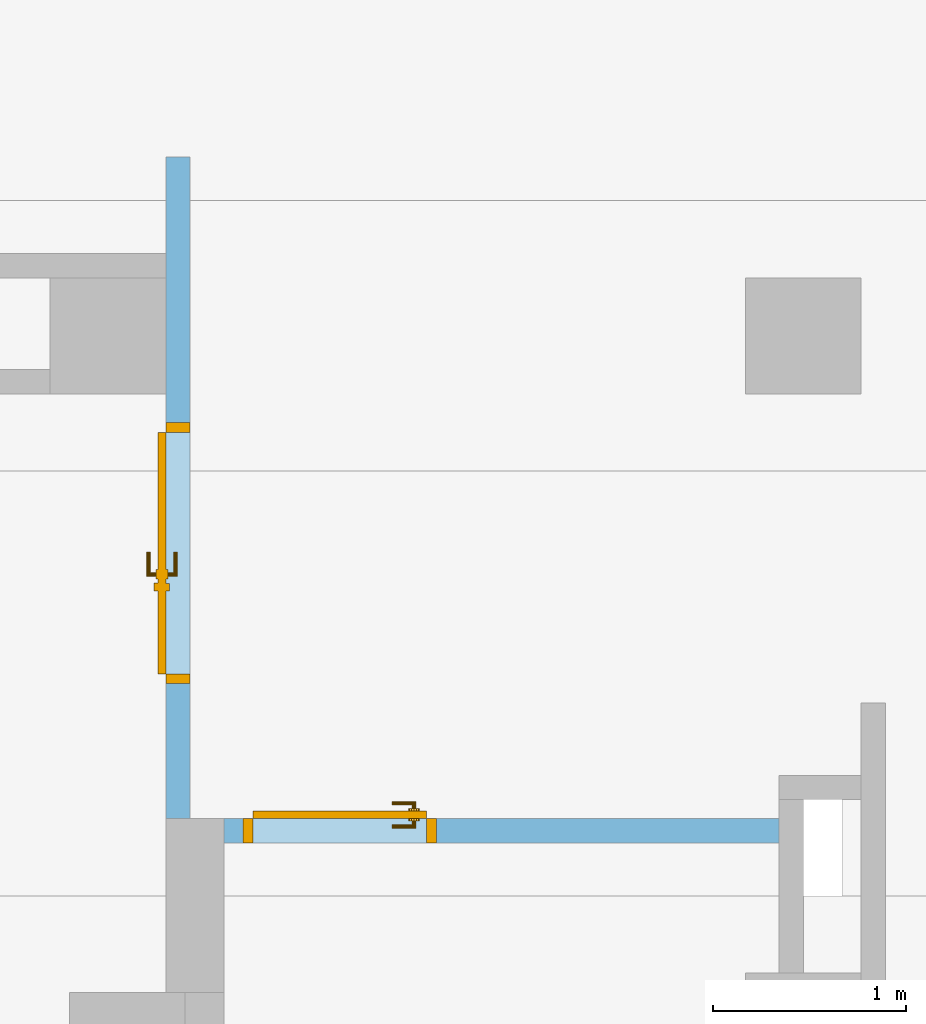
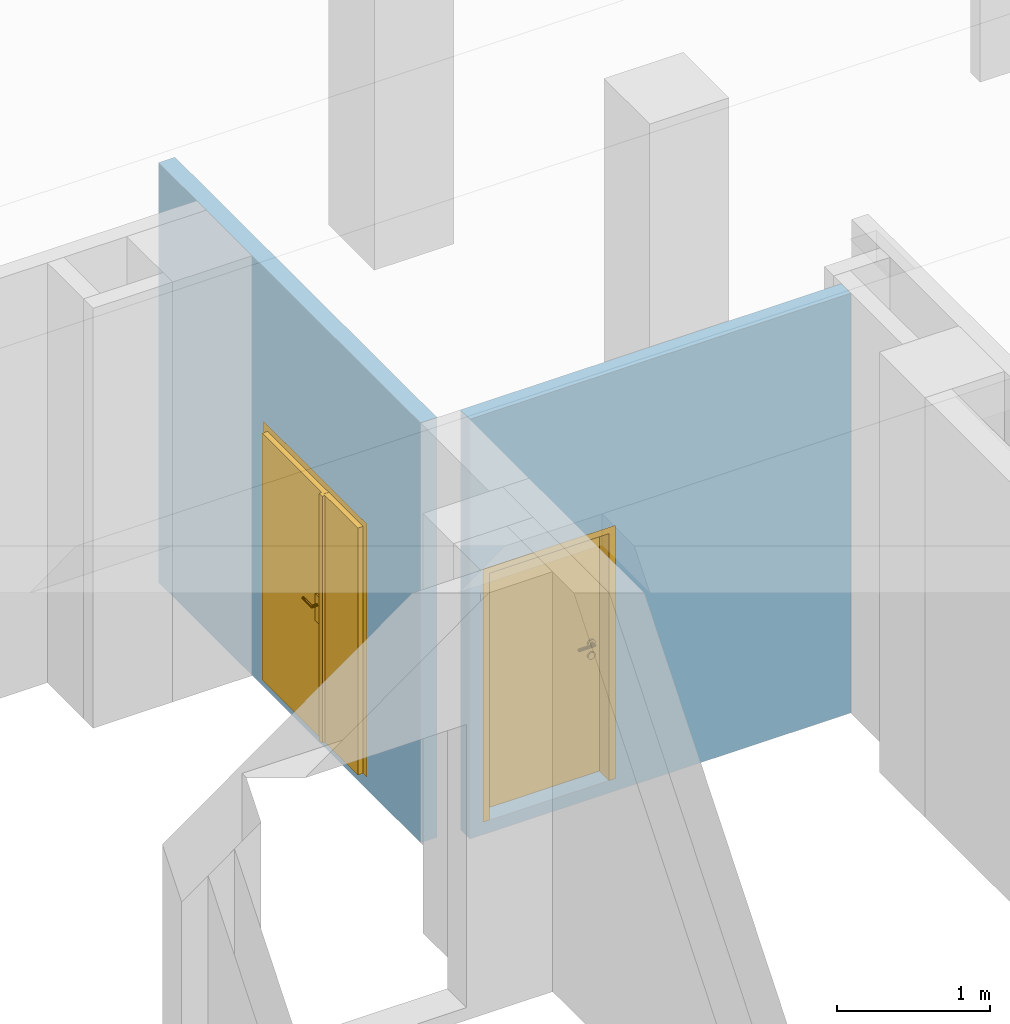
# One storey, part 41 of 50: 2 doors, 2 openings, plus 2 elements that do not belong to this part.
"""IFC4 building model written with IfcOpenShell, lengths in metres."""

from ifc_helpers import new_model, entity, si_unit, converted_unit, derived_unit, frame, frame_2d, origin, origin_with_axes, place, context, subcontext, project, spatial, polyline, rectangle, outline, extrude, closed_shell, open_shell, surface_model, source, transform, mapped, material, layer, layer_set, layer_usage, type_object, element, fill, save


model = new_model("IFC4")

# Units and contexts
model_context = context("Model", 3, precision=1e-05, world=origin())
body_context = subcontext(model_context, "Body", "Model", "MODEL_VIEW")
ifc_project = project(units=[si_unit("LENGTHUNIT", "METRE"), si_unit("AREAUNIT", "SQUARE_METRE"), si_unit("VOLUMEUNIT", "CUBIC_METRE"), si_unit("MASSUNIT", "GRAM", prefix="KILO"), converted_unit("PLANEANGLEUNIT", "DEGREE", entity("IfcPlaneAngleMeasure", 0.0174532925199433), si_unit("PLANEANGLEUNIT", "RADIAN"), dimensions=[0, 0, 0, 0, 0, 0, 0]), derived_unit("THERMALTRANSMITTANCEUNIT", [(si_unit("POWERUNIT", "WATT"), 1), (si_unit("THERMODYNAMICTEMPERATUREUNIT", "KELVIN"), -1), (si_unit("LENGTHUNIT", "METRE"), -2)]), derived_unit("VOLUMETRICFLOWRATEUNIT", [(si_unit("LENGTHUNIT", "METRE"), 3), (converted_unit("TIMEUNIT", "hour", entity("IfcTimeMeasure", 3600.0), si_unit("TIMEUNIT", "SECOND"), dimensions=[0, 0, 1, 0, 0, 0, 0]), -1), (si_unit("LENGTHUNIT", "METRE"), -1)])], contexts=[model_context])

# Site, building, storey
site_placement = place(None, origin())
site = spatial("IfcSite", under=ifc_project, at=site_placement, Name="3. ASŘ", CompositionType="ELEMENT")
building_placement = place(site_placement, origin())
building = spatial("IfcBuilding", under=site, at=building_placement, Name="Pavilon C", CompositionType="ELEMENT")
storey_placement = place(building_placement, frame((0.0, 0.0, 3.6)))
storey = spatial("IfcBuildingStorey", under=building, at=storey_placement, Name="Půdorys 2.NP", CompositionType="ELEMENT", Elevation=3.6)

# Wall, opening, door
ifc_material_1 = material(Name="ZDIVO Z CDm")
ifc_layer_1 = layer(ifc_material_1, 0.125)
ifc_layer_set_1 = layer_set([ifc_layer_1])
ifc_layer_usage_1 = layer_usage(ifc_layer_set_1, "AXIS2", "POSITIVE", 0.0)
wall_1_placement = place(storey_placement, frame((40.65, 4.525, -0.1), z_axis=(0.0, 0.0, 1.0), x_axis=(0.0, -1.0, 0.0)))
wall_1 = element("IfcWall", 1, at=wall_1_placement, inside=storey, material=ifc_layer_usage_1, Name="ZDIVO Z CDm", context=body_context, shape_type="SweptSolid", body=[
    extrude(rectangle(XDim=3.42500000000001, YDim=0.125, at=frame_2d((1.7125, 0.0625), x_axis=(1.0, 0.0))), origin_with_axes(), (0.0, 0.0, 1.0), 3.35),
])
opening_1_placement = place(wall_1_placement, frame((1.37500000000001, 0.0, 0.1), z_axis=(0.0, 1.0, 0.0), x_axis=(0.0, 0.0, 1.0)))
opening_1 = element("IfcOpeningElement", 2, at=opening_1_placement, cuts=wall_1, Name="Dveřní otvor", ObjectType="Opening", context=body_context, shape_type="SweptSolid", body=[
    extrude(outline(polyline([(0.0, 1.35), (2.02, 1.35), (2.02, 0.0), (0.0, 0.0), (0.0, 1.35)])), origin_with_axes(), (0.0, 0.0, 1.0), 0.125),
])
door_type_1 = type_object("IfcDoorType", Name="D501", OperationType="NOTDEFINED", ParameterTakesPrecedence=False, PredefinedType="DOOR")
shared_shape_1 = source(origin_with_axes(), body_context, "Body", "SurfaceModel", [
    surface_model("IfcShellBasedSurfaceModel", [(0.0, 0.125, 2.02), (0.0, 0.125, -7.65404249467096e-18), (0.05, 0.125, -7.65404249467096e-18), (0.05, 0.125, 2.02), (0.0, 0.0, 7.65404249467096e-18), (0.0, 2.41584530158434e-16, 2.02), (0.05, 2.41584530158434e-16, 2.02), (0.05, 0.0, 7.65404249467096e-18)], [closed_shell([[[0, 1, 2, 3]], [[4, 5, 6, 7]], [[1, 0, 5, 4]], [[2, 1, 4, 7]], [[3, 2, 7, 6]], [[0, 3, 6, 5]]], orient=[[False], [False], [False], [False], [False], [False]])]),
    surface_model("IfcShellBasedSurfaceModel", [(1.3, 0.125, 2.02), (1.3, 0.125, -7.65404249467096e-18), (1.35, 0.125, -7.65404249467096e-18), (1.35, 0.125, 2.02), (1.3, 0.0, 7.65404249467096e-18), (1.3, 2.41584530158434e-16, 2.02), (1.35, 2.41584530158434e-16, 2.02), (1.35, 0.0, 7.65404249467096e-18)], [closed_shell([[[0, 1, 2, 3]], [[4, 5, 6, 7]], [[1, 0, 5, 4]], [[2, 1, 4, 7]], [[3, 2, 7, 6]], [[0, 3, 6, 5]]], orient=[[False], [False], [False], [False], [False], [False]])]),
    surface_model("IfcShellBasedSurfaceModel", [(0.05, 0.125, 2.02), (0.05, 0.125, 1.97), (1.3, 0.125, 1.97), (1.3, 0.125, 2.02), (0.05, 2.41584530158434e-16, 1.97), (0.05, 2.41584530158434e-16, 2.02), (1.3, 2.41584530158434e-16, 2.02), (1.3, 2.41584530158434e-16, 1.97)], [closed_shell([[[0, 1, 2, 3]], [[4, 5, 6, 7]], [[1, 0, 5, 4]], [[2, 1, 4, 7]], [[3, 2, 7, 6]], [[0, 3, 6, 5]]], orient=[[False], [False], [False], [False], [False], [False]])]),
    surface_model("IfcShellBasedSurfaceModel", [(0.05, 0.165, 1.97), (0.05, 0.165, -1.25526296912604e-17), (0.85, 0.165, -1.25526296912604e-17), (0.85, 0.165, 1.97), (0.05, 0.125, -7.65404249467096e-18), (0.05, 0.125, 1.97), (0.85, 0.125, 1.97), (0.85, 0.125, -7.65404249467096e-18)], [closed_shell([[[0, 1, 2, 3]], [[4, 5, 6, 7]], [[1, 0, 5, 4]], [[2, 1, 4, 7]], [[3, 2, 7, 6]], [[0, 3, 6, 5]]], orient=[[False], [False], [False], [False], [False], [False]])]),
    surface_model("IfcShellBasedSurfaceModel", [(0.83, 0.165, 1.97), (0.87, 0.165, 1.97), (0.87, 0.165, -1.25526296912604e-17), (0.83, 0.165, -1.25526296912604e-17), (0.83, 0.185, -1.50019232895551e-17), (0.87, 0.185, -1.50019232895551e-17), (0.87, 0.185, 1.97), (0.83, 0.185, 1.97)], [closed_shell([[[0, 1, 2, 3]], [[4, 5, 6, 7]], [[3, 4, 7, 0]], [[2, 5, 4, 3]], [[1, 6, 5, 2]], [[0, 7, 6, 1]]], orient=[[False], [False], [False], [False], [False], [False]])]),
    surface_model("IfcShellBasedSurfaceModel", [(0.76, 0.125, 1.125), (0.76, 0.125, 0.91), (0.81, 0.125, 0.91), (0.81, 0.125, 1.125), (0.76, 0.115, 0.91), (0.76, 0.115, 1.125), (0.81, 0.115, 1.125), (0.81, 0.115, 0.91)], [closed_shell([[[0, 1, 2, 3]], [[4, 5, 6, 7]], [[1, 0, 5, 4]], [[2, 1, 4, 7]], [[3, 2, 7, 6]], [[0, 3, 6, 5]]], orient=[[False], [False], [False], [False], [False], [False]])]),
    surface_model("IfcShellBasedSurfaceModel", [(0.785, 0.115, 1.06), (0.78, 0.115, 1.05866025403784), (0.776339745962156, 0.115, 1.055), (0.775, 0.115, 1.05), (0.776339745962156, 0.115, 1.045), (0.78, 0.115, 1.04133974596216), (0.785, 0.115, 1.04), (0.79, 0.115, 1.04133974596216), (0.793660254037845, 0.115, 1.045), (0.795, 0.115, 1.05), (0.793660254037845, 0.115, 1.055), (0.79, 0.115, 1.05866025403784), (0.79, 0.0700000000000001, 1.05866025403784), (0.785, 0.0750000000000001, 1.06), (0.793660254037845, 0.0663397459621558, 1.055), (0.795, 0.0650000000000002, 1.05), (0.793660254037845, 0.0663397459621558, 1.045), (0.79, 0.0700000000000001, 1.04133974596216), (0.785, 0.0750000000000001, 1.04), (0.78, 0.0800000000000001, 1.04133974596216), (0.776339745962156, 0.0836602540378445, 1.045), (0.775, 0.0850000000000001, 1.05), (0.776339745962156, 0.0836602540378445, 1.055), (0.78, 0.0800000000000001, 1.05866025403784), (0.67, 0.0700000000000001, 1.05866025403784), (0.67, 0.0750000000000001, 1.06), (0.67, 0.0663397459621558, 1.055), (0.67, 0.0650000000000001, 1.05), (0.67, 0.0663397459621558, 1.045), (0.67, 0.0700000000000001, 1.04133974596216), (0.67, 0.0750000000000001, 1.04), (0.67, 0.0800000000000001, 1.04133974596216), (0.67, 0.0836602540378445, 1.045), (0.67, 0.0850000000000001, 1.05), (0.67, 0.0836602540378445, 1.055), (0.67, 0.0800000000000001, 1.05866025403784)], [open_shell([[[0, 1, 2, 3, 4, 5, 6, 7, 8, 9, 10, 11]], [[0, 11, 12, 13]], [[11, 10, 14, 12]], [[10, 9, 15, 14]], [[9, 8, 16, 15]], [[8, 7, 17, 16]], [[7, 6, 18, 17]], [[6, 5, 19, 18]], [[5, 4, 20, 19]], [[4, 3, 21, 20]], [[3, 2, 22, 21]], [[2, 1, 23, 22]], [[1, 0, 13, 23]], [[13, 12, 24, 25]], [[12, 14, 26, 24]], [[14, 15, 27, 26]], [[15, 16, 28, 27]], [[16, 17, 29, 28]], [[17, 18, 30, 29]], [[18, 19, 31, 30]], [[19, 20, 32, 31]], [[20, 21, 33, 32]], [[21, 22, 34, 33]], [[22, 23, 35, 34]], [[23, 13, 25, 35]]], orient=[[False], [False], [False], [False], [False], [False], [False], [False], [False], [False], [False], [False], [False], [False], [False], [False], [False], [False], [False], [False], [False], [False], [False], [False], [False]])]),
    surface_model("IfcShellBasedSurfaceModel", [(0.76, 0.165, 1.125), (0.81, 0.165, 1.125), (0.81, 0.165, 0.91), (0.76, 0.165, 0.91), (0.76, 0.175, 0.91), (0.81, 0.175, 0.91), (0.81, 0.175, 1.125), (0.76, 0.175, 1.125)], [closed_shell([[[0, 1, 2, 3]], [[4, 5, 6, 7]], [[3, 4, 7, 0]], [[2, 5, 4, 3]], [[1, 6, 5, 2]], [[0, 7, 6, 1]]], orient=[[False], [False], [False], [False], [False], [False]])]),
    surface_model("IfcShellBasedSurfaceModel", [(0.785, 0.175, 1.06), (0.79, 0.175, 1.05866025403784), (0.793660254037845, 0.175, 1.055), (0.795, 0.175, 1.05), (0.793660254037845, 0.175, 1.045), (0.79, 0.175, 1.04133974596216), (0.785, 0.175, 1.04), (0.78, 0.175, 1.04133974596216), (0.776339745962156, 0.175, 1.045), (0.775, 0.175, 1.05), (0.776339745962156, 0.175, 1.055), (0.78, 0.175, 1.05866025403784), (0.785, 0.215, 1.06), (0.79, 0.22, 1.05866025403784), (0.793660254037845, 0.223660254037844, 1.055), (0.795, 0.225, 1.05), (0.793660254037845, 0.223660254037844, 1.045), (0.79, 0.22, 1.04133974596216), (0.785, 0.215, 1.04), (0.78, 0.21, 1.04133974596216), (0.776339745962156, 0.206339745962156, 1.045), (0.775, 0.205, 1.05), (0.776339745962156, 0.206339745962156, 1.055), (0.78, 0.21, 1.05866025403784), (0.67, 0.215, 1.06), (0.67, 0.22, 1.05866025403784), (0.67, 0.223660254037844, 1.055), (0.67, 0.225, 1.05), (0.67, 0.223660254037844, 1.045), (0.67, 0.22, 1.04133974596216), (0.67, 0.215, 1.04), (0.67, 0.21, 1.04133974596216), (0.67, 0.206339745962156, 1.045), (0.67, 0.205, 1.05), (0.67, 0.206339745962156, 1.055), (0.67, 0.21, 1.05866025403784)], [open_shell([[[0, 1, 2, 3, 4, 5, 6, 7, 8, 9, 10, 11]], [[0, 12, 13, 1]], [[1, 13, 14, 2]], [[2, 14, 15, 3]], [[3, 15, 16, 4]], [[4, 16, 17, 5]], [[5, 17, 18, 6]], [[6, 18, 19, 7]], [[7, 19, 20, 8]], [[8, 20, 21, 9]], [[9, 21, 22, 10]], [[10, 22, 23, 11]], [[11, 23, 12, 0]], [[12, 24, 25, 13]], [[13, 25, 26, 14]], [[14, 26, 27, 15]], [[15, 27, 28, 16]], [[16, 28, 29, 17]], [[17, 29, 30, 18]], [[18, 30, 31, 19]], [[19, 31, 32, 20]], [[20, 32, 33, 21]], [[21, 33, 34, 22]], [[22, 34, 35, 23]], [[23, 35, 24, 12]]], orient=[[False], [False], [False], [False], [False], [False], [False], [False], [False], [False], [False], [False], [False], [False], [False], [False], [False], [False], [False], [False], [False], [False], [False], [False], [False]])]),
    surface_model("IfcShellBasedSurfaceModel", [(0.851, 0.165, 1.97), (0.851, 0.165, -1.25526296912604e-17), (1.3, 0.165, -1.25526296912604e-17), (1.3, 0.165, 1.97), (0.851, 0.125, -7.65404249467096e-18), (0.851, 0.125, 1.97), (1.3, 0.125, 1.97), (1.3, 0.125, -7.65404249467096e-18)], [closed_shell([[[0, 1, 2, 3]], [[4, 5, 6, 7]], [[1, 0, 5, 4]], [[2, 1, 4, 7]], [[3, 2, 7, 6]], [[0, 3, 6, 5]]], orient=[[False], [False], [False], [False], [False], [False]])]),
    surface_model("IfcShellBasedSurfaceModel", [(0.831, 0.125, 1.97), (0.831, 0.125, -7.65404249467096e-18), (0.871, 0.125, -7.65404249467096e-18), (0.871, 0.125, 1.97), (0.831, 0.105, -5.20474889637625e-18), (0.831, 0.105, 1.97), (0.871, 0.105, 1.97), (0.871, 0.105, -5.20474889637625e-18)], [closed_shell([[[0, 1, 2, 3]], [[4, 5, 6, 7]], [[1, 0, 5, 4]], [[2, 1, 4, 7]], [[3, 2, 7, 6]], [[0, 3, 6, 5]]], orient=[[False], [False], [False], [False], [False], [False]])]),
])
door_1_placement = place(opening_1_placement, frame((0.0, 9.09494701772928e-16, 0.124999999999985), z_axis=(1.0, 0.0, 0.0), x_axis=(0.0, 1.0, -1.22464679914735e-16)))
door_1 = element("IfcDoor", 3, at=door_1_placement, inside=storey, type_object=door_type_1, Name="D501", OverallHeight=2.02, OverallWidth=1.35, context=body_context, shape_type="MappedRepresentation", body=[
    mapped(shared_shape_1, transform((0.0, 0.0, 0.0), x_axis=(1.0, 0.0, 0.0), y_axis=(0.0, -1.0, 0.0), z_axis=(0.0, 0.0, 1.0), scale=1.0)),
])
fill(opening_1, door_1)

ifc_material_2 = material(Name="ZDIVO Z CDm")
ifc_layer_2 = layer(ifc_material_2, 0.125)
ifc_layer_set_2 = layer_set([ifc_layer_2])
ifc_layer_usage_2 = layer_usage(ifc_layer_set_2, "AXIS2", "POSITIVE", 0.0)
wall_2_placement = place(storey_placement, frame((40.95, 0.97499999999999, -0.1), z_axis=(0.0, 0.0, 1.0), x_axis=(1.0, -1.18629743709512e-16, 0.0)))
wall_2 = element("IfcWall", 4, at=wall_2_placement, inside=storey, material=ifc_layer_usage_2, Name="ZDIVO Z CDm", context=body_context, shape_type="SweptSolid", body=[
    extrude(rectangle(XDim=2.875, YDim=0.125, at=frame_2d((1.4375, 0.0625), x_axis=(1.0, 0.0))), origin_with_axes(), (0.0, 0.0, 1.0), 3.35),
])
opening_2_placement = place(wall_2_placement, frame((1.1, 0.125, 0.1), z_axis=(0.0, -1.0, 0.0), x_axis=(0.0, 0.0, 1.0)))
opening_2 = element("IfcOpeningElement", 5, at=opening_2_placement, cuts=wall_2, Name="Dveřní otvor", ObjectType="Opening", context=body_context, shape_type="SweptSolid", body=[
    extrude(outline(polyline([(0.0, 1.0), (2.02, 1.0), (2.02, 0.0), (0.0, 0.0), (0.0, 1.0)])), origin_with_axes(), (0.0, 0.0, 1.0), 0.125),
])
door_type_2 = type_object("IfcDoorType", Name="D101", OperationType="NOTDEFINED", ParameterTakesPrecedence=False, PredefinedType="DOOR")
shared_shape_2 = source(origin_with_axes(), body_context, "Body", "SurfaceModel", [
    surface_model("IfcShellBasedSurfaceModel", [(0.0, 0.125, 2.02), (0.0, 0.125, -7.65404249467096e-18), (0.05, 0.125, -7.65404249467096e-18), (0.05, 0.125, 2.02), (0.0, 0.0, 7.65404249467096e-18), (0.0, 2.41584530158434e-16, 2.02), (0.05, 2.41584530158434e-16, 2.02), (0.05, 0.0, 7.65404249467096e-18)], [closed_shell([[[0, 1, 2, 3]], [[4, 5, 6, 7]], [[1, 0, 5, 4]], [[2, 1, 4, 7]], [[3, 2, 7, 6]], [[0, 3, 6, 5]]], orient=[[False], [False], [False], [False], [False], [False]])]),
    surface_model("IfcShellBasedSurfaceModel", [(0.95, 0.125, 2.02), (0.95, 0.125, -7.65404249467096e-18), (1.0, 0.125, -7.65404249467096e-18), (1.0, 0.125, 2.02), (0.95, 0.0, 7.65404249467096e-18), (0.95, 2.41584530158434e-16, 2.02), (1.0, 2.41584530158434e-16, 2.02), (1.0, 0.0, 7.65404249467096e-18)], [closed_shell([[[0, 1, 2, 3]], [[4, 5, 6, 7]], [[1, 0, 5, 4]], [[2, 1, 4, 7]], [[3, 2, 7, 6]], [[0, 3, 6, 5]]], orient=[[False], [False], [False], [False], [False], [False]])]),
    surface_model("IfcShellBasedSurfaceModel", [(0.05, 0.125, 2.02), (0.05, 0.125, 1.97), (0.95, 0.125, 1.97), (0.95, 0.125, 2.02), (0.05, 2.41584530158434e-16, 1.97), (0.05, 2.41584530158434e-16, 2.02), (0.95, 2.41584530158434e-16, 2.02), (0.95, 2.41584530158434e-16, 1.97)], [closed_shell([[[0, 1, 2, 3]], [[4, 5, 6, 7]], [[1, 0, 5, 4]], [[2, 1, 4, 7]], [[3, 2, 7, 6]], [[0, 3, 6, 5]]], orient=[[False], [False], [False], [False], [False], [False]])]),
    surface_model("IfcShellBasedSurfaceModel", [(0.05, 0.165, 1.97), (0.05, 0.165, -1.25526296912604e-17), (0.95, 0.165, -1.25526296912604e-17), (0.95, 0.165, 1.97), (0.05, 0.125, -7.65404249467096e-18), (0.05, 0.125, 1.97), (0.95, 0.125, 1.97), (0.95, 0.125, -7.65404249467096e-18)], [closed_shell([[[0, 1, 2, 3]], [[4, 5, 6, 7]], [[1, 0, 5, 4]], [[2, 1, 4, 7]], [[3, 2, 7, 6]], [[0, 3, 6, 5]]], orient=[[False], [False], [False], [False], [False], [False]])]),
    surface_model("IfcShellBasedSurfaceModel", [(0.908815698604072, 0.125, 0.93625), (0.9125, 0.125, 0.95), (0.908815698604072, 0.125, 0.96375), (0.89875, 0.125, 0.973815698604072), (0.885, 0.125, 0.9775), (0.87125, 0.125, 0.973815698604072), (0.861184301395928, 0.125, 0.96375), (0.8575, 0.125, 0.95), (0.861184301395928, 0.125, 0.93625), (0.87125, 0.125, 0.926184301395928), (0.885, 0.125, 0.9225), (0.89875, 0.125, 0.926184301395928), (0.9125, 0.1125, 0.95), (0.908815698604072, 0.1125, 0.93625), (0.89875, 0.1125, 0.926184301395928), (0.885, 0.1125, 0.9225), (0.87125, 0.1125, 0.926184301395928), (0.861184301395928, 0.1125, 0.93625), (0.8575, 0.1125, 0.95), (0.861184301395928, 0.1125, 0.96375), (0.87125, 0.1125, 0.973815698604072), (0.885, 0.1125, 0.9775), (0.89875, 0.1125, 0.973815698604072), (0.908815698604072, 0.1125, 0.96375)], [closed_shell([[[0, 1, 2, 3, 4, 5, 6, 7, 8, 9, 10, 11]], [[12, 13, 14, 15, 16, 17, 18, 19, 20, 21, 22, 23]], [[1, 0, 13, 12]], [[2, 1, 12, 23]], [[3, 2, 23, 22]], [[4, 3, 22, 21]], [[5, 4, 21, 20]], [[6, 5, 20, 19]], [[7, 6, 19, 18]], [[8, 7, 18, 17]], [[9, 8, 17, 16]], [[10, 9, 16, 15]], [[11, 10, 15, 14]], [[0, 11, 14, 13]]], orient=[[False], [False], [False], [False], [False], [False], [False], [False], [False], [False], [False], [False], [False], [False]])]),
    surface_model("IfcShellBasedSurfaceModel", [(0.908815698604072, 0.125, 1.03625), (0.9125, 0.125, 1.05), (0.908815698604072, 0.125, 1.06375), (0.89875, 0.125, 1.07381569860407), (0.885, 0.125, 1.0775), (0.87125, 0.125, 1.07381569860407), (0.861184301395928, 0.125, 1.06375), (0.8575, 0.125, 1.05), (0.861184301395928, 0.125, 1.03625), (0.87125, 0.125, 1.02618430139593), (0.885, 0.125, 1.0225), (0.89875, 0.125, 1.02618430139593), (0.9125, 0.1125, 1.05), (0.908815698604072, 0.1125, 1.03625), (0.89875, 0.1125, 1.02618430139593), (0.885, 0.1125, 1.0225), (0.87125, 0.1125, 1.02618430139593), (0.861184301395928, 0.1125, 1.03625), (0.8575, 0.1125, 1.05), (0.861184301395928, 0.1125, 1.06375), (0.87125, 0.1125, 1.07381569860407), (0.885, 0.1125, 1.0775), (0.89875, 0.1125, 1.07381569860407), (0.908815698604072, 0.1125, 1.06375)], [closed_shell([[[0, 1, 2, 3, 4, 5, 6, 7, 8, 9, 10, 11]], [[12, 13, 14, 15, 16, 17, 18, 19, 20, 21, 22, 23]], [[1, 0, 13, 12]], [[2, 1, 12, 23]], [[3, 2, 23, 22]], [[4, 3, 22, 21]], [[5, 4, 21, 20]], [[6, 5, 20, 19]], [[7, 6, 19, 18]], [[8, 7, 18, 17]], [[9, 8, 17, 16]], [[10, 9, 16, 15]], [[11, 10, 15, 14]], [[0, 11, 14, 13]]], orient=[[False], [False], [False], [False], [False], [False], [False], [False], [False], [False], [False], [False], [False], [False]])]),
    surface_model("IfcShellBasedSurfaceModel", [(0.885, 0.125, 1.06), (0.88, 0.125, 1.05866025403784), (0.876339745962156, 0.125, 1.055), (0.875, 0.125, 1.05), (0.876339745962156, 0.125, 1.045), (0.88, 0.125, 1.04133974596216), (0.885, 0.125, 1.04), (0.89, 0.125, 1.04133974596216), (0.893660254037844, 0.125, 1.045), (0.895, 0.125, 1.05), (0.893660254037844, 0.125, 1.055), (0.89, 0.125, 1.05866025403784), (0.89, 0.0800000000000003, 1.05866025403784), (0.885, 0.0850000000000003, 1.06), (0.893660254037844, 0.0763397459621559, 1.055), (0.895, 0.0750000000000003, 1.05), (0.893660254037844, 0.0763397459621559, 1.045), (0.89, 0.0800000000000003, 1.04133974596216), (0.885, 0.0850000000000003, 1.04), (0.88, 0.0900000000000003, 1.04133974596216), (0.876339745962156, 0.0936602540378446, 1.045), (0.875, 0.0950000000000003, 1.05), (0.876339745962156, 0.0936602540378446, 1.055), (0.88, 0.0900000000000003, 1.05866025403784), (0.77, 0.0800000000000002, 1.05866025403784), (0.77, 0.0850000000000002, 1.06), (0.77, 0.0763397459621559, 1.055), (0.77, 0.0750000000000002, 1.05), (0.77, 0.0763397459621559, 1.045), (0.77, 0.0800000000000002, 1.04133974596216), (0.77, 0.0850000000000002, 1.04), (0.77, 0.0900000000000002, 1.04133974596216), (0.77, 0.0936602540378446, 1.045), (0.77, 0.0950000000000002, 1.05), (0.77, 0.0936602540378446, 1.055), (0.77, 0.0900000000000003, 1.05866025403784)], [open_shell([[[0, 1, 2, 3, 4, 5, 6, 7, 8, 9, 10, 11]], [[0, 11, 12, 13]], [[11, 10, 14, 12]], [[10, 9, 15, 14]], [[9, 8, 16, 15]], [[8, 7, 17, 16]], [[7, 6, 18, 17]], [[6, 5, 19, 18]], [[5, 4, 20, 19]], [[4, 3, 21, 20]], [[3, 2, 22, 21]], [[2, 1, 23, 22]], [[1, 0, 13, 23]], [[13, 12, 24, 25]], [[12, 14, 26, 24]], [[14, 15, 27, 26]], [[15, 16, 28, 27]], [[16, 17, 29, 28]], [[17, 18, 30, 29]], [[18, 19, 31, 30]], [[19, 20, 32, 31]], [[20, 21, 33, 32]], [[21, 22, 34, 33]], [[22, 23, 35, 34]], [[23, 13, 25, 35]]], orient=[[False], [False], [False], [False], [False], [False], [False], [False], [False], [False], [False], [False], [False], [False], [False], [False], [False], [False], [False], [False], [False], [False], [False], [False], [False]])]),
    surface_model("IfcShellBasedSurfaceModel", [(0.908815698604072, 0.165, 0.93625), (0.89875, 0.165, 0.926184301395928), (0.885, 0.165, 0.9225), (0.87125, 0.165, 0.926184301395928), (0.861184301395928, 0.165, 0.93625), (0.8575, 0.165, 0.95), (0.861184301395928, 0.165, 0.96375), (0.87125, 0.165, 0.973815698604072), (0.885, 0.165, 0.9775), (0.89875, 0.165, 0.973815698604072), (0.908815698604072, 0.165, 0.96375), (0.9125, 0.165, 0.95), (0.9125, 0.1775, 0.95), (0.908815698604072, 0.1775, 0.96375), (0.89875, 0.1775, 0.973815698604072), (0.885, 0.1775, 0.9775), (0.87125, 0.1775, 0.973815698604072), (0.861184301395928, 0.1775, 0.96375), (0.8575, 0.1775, 0.95), (0.861184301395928, 0.1775, 0.93625), (0.87125, 0.1775, 0.926184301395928), (0.885, 0.1775, 0.9225), (0.89875, 0.1775, 0.926184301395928), (0.908815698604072, 0.1775, 0.93625)], [closed_shell([[[0, 1, 2, 3, 4, 5, 6, 7, 8, 9, 10, 11]], [[12, 13, 14, 15, 16, 17, 18, 19, 20, 21, 22, 23]], [[11, 12, 23, 0]], [[10, 13, 12, 11]], [[9, 14, 13, 10]], [[8, 15, 14, 9]], [[7, 16, 15, 8]], [[6, 17, 16, 7]], [[5, 18, 17, 6]], [[4, 19, 18, 5]], [[3, 20, 19, 4]], [[2, 21, 20, 3]], [[1, 22, 21, 2]], [[0, 23, 22, 1]]], orient=[[False], [False], [False], [False], [False], [False], [False], [False], [False], [False], [False], [False], [False], [False]])]),
    surface_model("IfcShellBasedSurfaceModel", [(0.908815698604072, 0.165, 1.03625), (0.89875, 0.165, 1.02618430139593), (0.885, 0.165, 1.0225), (0.87125, 0.165, 1.02618430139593), (0.861184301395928, 0.165, 1.03625), (0.8575, 0.165, 1.05), (0.861184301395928, 0.165, 1.06375), (0.87125, 0.165, 1.07381569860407), (0.885, 0.165, 1.0775), (0.89875, 0.165, 1.07381569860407), (0.908815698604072, 0.165, 1.06375), (0.9125, 0.165, 1.05), (0.9125, 0.1775, 1.05), (0.908815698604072, 0.1775, 1.06375), (0.89875, 0.1775, 1.07381569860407), (0.885, 0.1775, 1.0775), (0.87125, 0.1775, 1.07381569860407), (0.861184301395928, 0.1775, 1.06375), (0.8575, 0.1775, 1.05), (0.861184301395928, 0.1775, 1.03625), (0.87125, 0.1775, 1.02618430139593), (0.885, 0.1775, 1.0225), (0.89875, 0.1775, 1.02618430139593), (0.908815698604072, 0.1775, 1.03625)], [closed_shell([[[0, 1, 2, 3, 4, 5, 6, 7, 8, 9, 10, 11]], [[12, 13, 14, 15, 16, 17, 18, 19, 20, 21, 22, 23]], [[11, 12, 23, 0]], [[10, 13, 12, 11]], [[9, 14, 13, 10]], [[8, 15, 14, 9]], [[7, 16, 15, 8]], [[6, 17, 16, 7]], [[5, 18, 17, 6]], [[4, 19, 18, 5]], [[3, 20, 19, 4]], [[2, 21, 20, 3]], [[1, 22, 21, 2]], [[0, 23, 22, 1]]], orient=[[False], [False], [False], [False], [False], [False], [False], [False], [False], [False], [False], [False], [False], [False]])]),
    surface_model("IfcShellBasedSurfaceModel", [(0.885, 0.165, 1.06), (0.89, 0.165, 1.05866025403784), (0.893660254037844, 0.165, 1.055), (0.895, 0.165, 1.05), (0.893660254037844, 0.165, 1.045), (0.89, 0.165, 1.04133974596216), (0.885, 0.165, 1.04), (0.88, 0.165, 1.04133974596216), (0.876339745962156, 0.165, 1.045), (0.875, 0.165, 1.05), (0.876339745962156, 0.165, 1.055), (0.88, 0.165, 1.05866025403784), (0.885, 0.205, 1.06), (0.89, 0.21, 1.05866025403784), (0.893660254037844, 0.213660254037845, 1.055), (0.895, 0.215, 1.05), (0.893660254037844, 0.213660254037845, 1.045), (0.89, 0.21, 1.04133974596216), (0.885, 0.205, 1.04), (0.88, 0.2, 1.04133974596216), (0.876339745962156, 0.196339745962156, 1.045), (0.875, 0.195, 1.05), (0.876339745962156, 0.196339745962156, 1.055), (0.88, 0.2, 1.05866025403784), (0.77, 0.205, 1.06), (0.77, 0.21, 1.05866025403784), (0.77, 0.213660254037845, 1.055), (0.77, 0.215, 1.05), (0.77, 0.213660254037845, 1.045), (0.77, 0.21, 1.04133974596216), (0.77, 0.205, 1.04), (0.77, 0.2, 1.04133974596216), (0.77, 0.196339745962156, 1.045), (0.77, 0.195, 1.05), (0.77, 0.196339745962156, 1.055), (0.77, 0.2, 1.05866025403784)], [open_shell([[[0, 1, 2, 3, 4, 5, 6, 7, 8, 9, 10, 11]], [[0, 12, 13, 1]], [[1, 13, 14, 2]], [[2, 14, 15, 3]], [[3, 15, 16, 4]], [[4, 16, 17, 5]], [[5, 17, 18, 6]], [[6, 18, 19, 7]], [[7, 19, 20, 8]], [[8, 20, 21, 9]], [[9, 21, 22, 10]], [[10, 22, 23, 11]], [[11, 23, 12, 0]], [[12, 24, 25, 13]], [[13, 25, 26, 14]], [[14, 26, 27, 15]], [[15, 27, 28, 16]], [[16, 28, 29, 17]], [[17, 29, 30, 18]], [[18, 30, 31, 19]], [[19, 31, 32, 20]], [[20, 32, 33, 21]], [[21, 33, 34, 22]], [[22, 34, 35, 23]], [[23, 35, 24, 12]]], orient=[[False], [False], [False], [False], [False], [False], [False], [False], [False], [False], [False], [False], [False], [False], [False], [False], [False], [False], [False], [False], [False], [False], [False], [False], [False]])]),
])
door_2_placement = place(opening_2_placement, frame((0.0, 1.0, 0.125), z_axis=(1.0, 0.0, 0.0), x_axis=(0.0, -1.0, 1.26299616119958e-16)))
door_2 = element("IfcDoor", 6, at=door_2_placement, inside=storey, type_object=door_type_2, Name="D101", OverallHeight=2.02, OverallWidth=1.0, context=body_context, shape_type="MappedRepresentation", body=[
    mapped(shared_shape_2, transform((0.0, 0.0, 0.0), x_axis=(1.0, 0.0, 0.0), y_axis=(0.0, 1.0, 0.0), z_axis=(0.0, 0.0, 1.0), scale=1.0)),
])
fill(opening_2, door_2)

save(model, "model.ifc")
